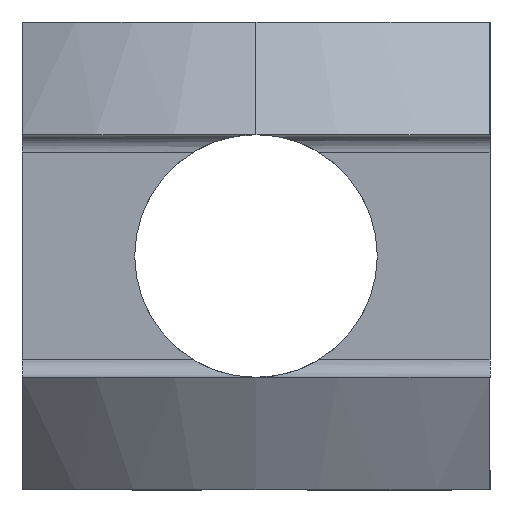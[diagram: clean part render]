
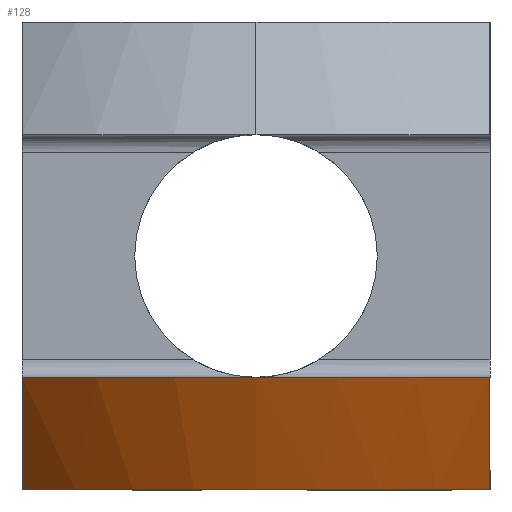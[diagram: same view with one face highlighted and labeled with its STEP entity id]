
A CAD part, left-side view. The second image highlights one B-rep face of the part: STEP entity #128.
In plain terms, the highlighted conical face has half-angle 30 degrees and reference radius 27 mm.
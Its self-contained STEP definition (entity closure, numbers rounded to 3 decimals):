
#18 = EDGE_LOOP ( 'NONE', ( #184, #185, #186, #187 ) ) ;
#128 = ADVANCED_FACE ( 'NONE', ( #460 ), #454, .T. ) ;
#184 = ORIENTED_EDGE ( 'NONE', *, *, #1214, .F. ) ;
#185 = ORIENTED_EDGE ( 'NONE', *, *, #225, .F. ) ;
#186 = ORIENTED_EDGE ( 'NONE', *, *, #236, .T. ) ;
#187 = ORIENTED_EDGE ( 'NONE', *, *, #1220, .F. ) ;
#225 = EDGE_CURVE ( 'NONE', #237, #1221, #625, .T. ) ;
#236 = EDGE_CURVE ( 'NONE', #237, #1217, #655, .T. ) ;
#237 = VERTEX_POINT ( 'NONE', #656 ) ;
#450 = DIRECTION ( 'NONE',  ( 1., 0., 0. ) ) ;
#451 = DIRECTION ( 'NONE',  ( 0., 0., 1. ) ) ;
#452 = AXIS2_PLACEMENT_3D ( 'NONE', #453, #451, #450 ) ;
#453 = CARTESIAN_POINT ( 'NONE',  ( -45., 0., -7. ) ) ;
#454 = CONICAL_SURFACE ( 'NONE', #452, 27., 0.524 ) ;
#460 = FACE_OUTER_BOUND ( 'NONE', #18, .T. ) ;
#622 = CARTESIAN_POINT ( 'NONE',  ( -66.925, 13.5, -9.186 ) ) ;
#623 = CARTESIAN_POINT ( 'NONE',  ( -65.445, 13.5, -11.358 ) ) ;
#624 = CARTESIAN_POINT ( 'NONE',  ( -63.926, 13.5, -13.5 ) ) ;
#625 = B_SPLINE_CURVE_WITH_KNOTS ( 'NONE', 3,
 ( #624, #623, #622, #676 ),
 .UNSPECIFIED., .F., .F.,
 ( 4, 4 ),
 ( 0.012, 0.02 ),
 .UNSPECIFIED. ) ;
#653 = CARTESIAN_POINT ( 'NONE',  ( -45., 0., -13.5 ) ) ;
#654 = AXIS2_PLACEMENT_3D ( 'NONE', #653, #704, #703 ) ;
#655 = CIRCLE ( 'NONE', #654, 23.247 ) ;
#656 = CARTESIAN_POINT ( 'NONE',  ( -63.926, 13.5, -13.5 ) ) ;
#676 = CARTESIAN_POINT ( 'NONE',  ( -68.383, 13.5, -7. ) ) ;
#703 = DIRECTION ( 'NONE',  ( 1., 0., 0. ) ) ;
#704 = DIRECTION ( 'NONE',  ( 0., 0., 1. ) ) ;
#836 = CARTESIAN_POINT ( 'NONE',  ( -45., 0., -7. ) ) ;
#855 = CARTESIAN_POINT ( 'NONE',  ( -68.383, -13.5, -7. ) ) ;
#872 = CARTESIAN_POINT ( 'NONE',  ( -63.926, -13.5, -13.5 ) ) ;
#873 = CARTESIAN_POINT ( 'NONE',  ( -65.445, -13.5, -11.358 ) ) ;
#874 = CARTESIAN_POINT ( 'NONE',  ( -66.925, -13.5, -9.186 ) ) ;
#875 = CARTESIAN_POINT ( 'NONE',  ( -68.383, -13.5, -7. ) ) ;
#876 = CARTESIAN_POINT ( 'NONE',  ( -68.383, 13.5, -7. ) ) ;
#877 = B_SPLINE_CURVE_WITH_KNOTS ( 'NONE', 3,
 ( #875, #874, #873, #872 ),
 .UNSPECIFIED., .F., .F.,
 ( 4, 4 ),
 ( 0.032, 0.04 ),
 .UNSPECIFIED. ) ;
#883 = CARTESIAN_POINT ( 'NONE',  ( -63.926, -13.5, -13.5 ) ) ;
#884 = DIRECTION ( 'NONE',  ( 1., 0., 0. ) ) ;
#885 = DIRECTION ( 'NONE',  ( 0., 0., 1. ) ) ;
#894 = AXIS2_PLACEMENT_3D ( 'NONE', #836, #885, #884 ) ;
#895 = CIRCLE ( 'NONE', #894, 27. ) ;
#1206 = VERTEX_POINT ( 'NONE', #855 ) ;
#1214 = EDGE_CURVE ( 'NONE', #1221, #1206, #895, .T. ) ;
#1217 = VERTEX_POINT ( 'NONE', #883 ) ;
#1220 = EDGE_CURVE ( 'NONE', #1206, #1217, #877, .T. ) ;
#1221 = VERTEX_POINT ( 'NONE', #876 ) ;
